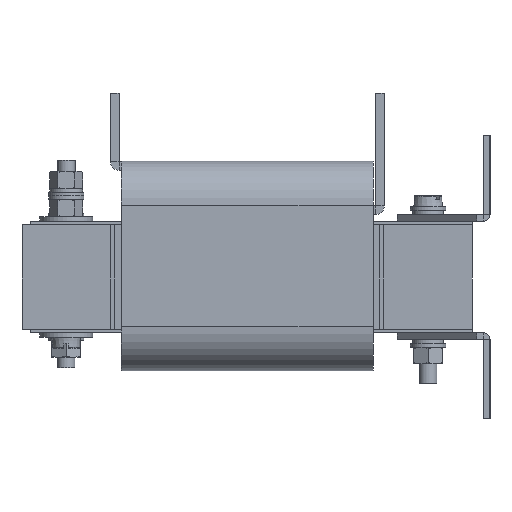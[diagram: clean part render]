
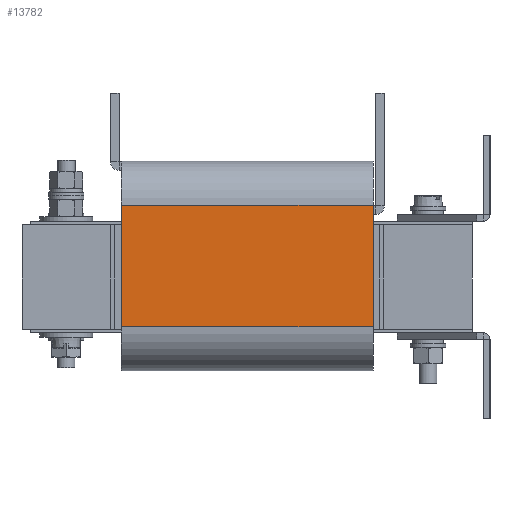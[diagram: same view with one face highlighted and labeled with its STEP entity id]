
A CAD part, left-side view. The second image highlights one B-rep face of the part: STEP entity #13782.
In plain terms, the highlighted planar face has unit normal (-1, 0, 0).
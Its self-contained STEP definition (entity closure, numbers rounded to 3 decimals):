
#775 = EDGE_CURVE ( 'NONE', #7434, #14693, #9162, .T. ) ;
#1407 = DIRECTION ( 'NONE',  ( 0., -1., 0. ) ) ;
#1561 = VERTEX_POINT ( 'NONE', #1862 ) ;
#1862 = CARTESIAN_POINT ( 'NONE',  ( -37.2, -57., -22.45 ) ) ;
#1875 = CARTESIAN_POINT ( 'NONE',  ( -37.2, 57., 32.45 ) ) ;
#4289 = AXIS2_PLACEMENT_3D ( 'NONE', #16465, #19830, #9869 ) ;
#7022 = CARTESIAN_POINT ( 'NONE',  ( -37.2, 57., -22.45 ) ) ;
#7434 = VERTEX_POINT ( 'NONE', #13797 ) ;
#7649 = ORIENTED_EDGE ( 'NONE', *, *, #20052, .T. ) ;
#7917 = CARTESIAN_POINT ( 'NONE',  ( -37.2, 57., 52.45 ) ) ;
#8242 = PLANE ( 'NONE',  #4289 ) ;
#8426 = FACE_OUTER_BOUND ( 'NONE', #9442, .T. ) ;
#8749 = CARTESIAN_POINT ( 'NONE',  ( -37.2, 57., 32.45 ) ) ;
#8804 = CARTESIAN_POINT ( 'NONE',  ( -37.2, -57., 52.45 ) ) ;
#8990 = ORIENTED_EDGE ( 'NONE', *, *, #775, .T. ) ;
#9162 = LINE ( 'NONE', #1875, #17964 ) ;
#9442 = EDGE_LOOP ( 'NONE', ( #10665, #12844, #7649, #8990 ) ) ;
#9869 = DIRECTION ( 'NONE',  ( 0., 0., -1. ) ) ;
#9982 = EDGE_CURVE ( 'NONE', #20011, #1561, #12764, .T. ) ;
#10415 = DIRECTION ( 'NONE',  ( 0., 0., 1. ) ) ;
#10665 = ORIENTED_EDGE ( 'NONE', *, *, #11016, .F. ) ;
#11016 = EDGE_CURVE ( 'NONE', #20011, #14693, #13813, .T. ) ;
#11154 = DIRECTION ( 'NONE',  ( 0., 0., 1. ) ) ;
#11946 = LINE ( 'NONE', #8804, #13280 ) ;
#12675 = VECTOR ( 'NONE', #1407, 1000. ) ;
#12764 = LINE ( 'NONE', #16387, #12675 ) ;
#12844 = ORIENTED_EDGE ( 'NONE', *, *, #9982, .T. ) ;
#13280 = VECTOR ( 'NONE', #10415, 1000. ) ;
#13540 = VECTOR ( 'NONE', #11154, 1000. ) ;
#13782 = ADVANCED_FACE ( 'NONE', ( #8426 ), #8242, .F. ) ;
#13797 = CARTESIAN_POINT ( 'NONE',  ( -37.2, -57., 32.45 ) ) ;
#13813 = LINE ( 'NONE', #7917, #13540 ) ;
#14693 = VERTEX_POINT ( 'NONE', #8749 ) ;
#14990 = DIRECTION ( 'NONE',  ( 0., 1., 0. ) ) ;
#16387 = CARTESIAN_POINT ( 'NONE',  ( -37.2, 57., -22.45 ) ) ;
#16465 = CARTESIAN_POINT ( 'NONE',  ( -37.2, 57., 52.45 ) ) ;
#17964 = VECTOR ( 'NONE', #14990, 1000. ) ;
#19830 = DIRECTION ( 'NONE',  ( 1., 0., 0. ) ) ;
#20011 = VERTEX_POINT ( 'NONE', #7022 ) ;
#20052 = EDGE_CURVE ( 'NONE', #1561, #7434, #11946, .T. ) ;
